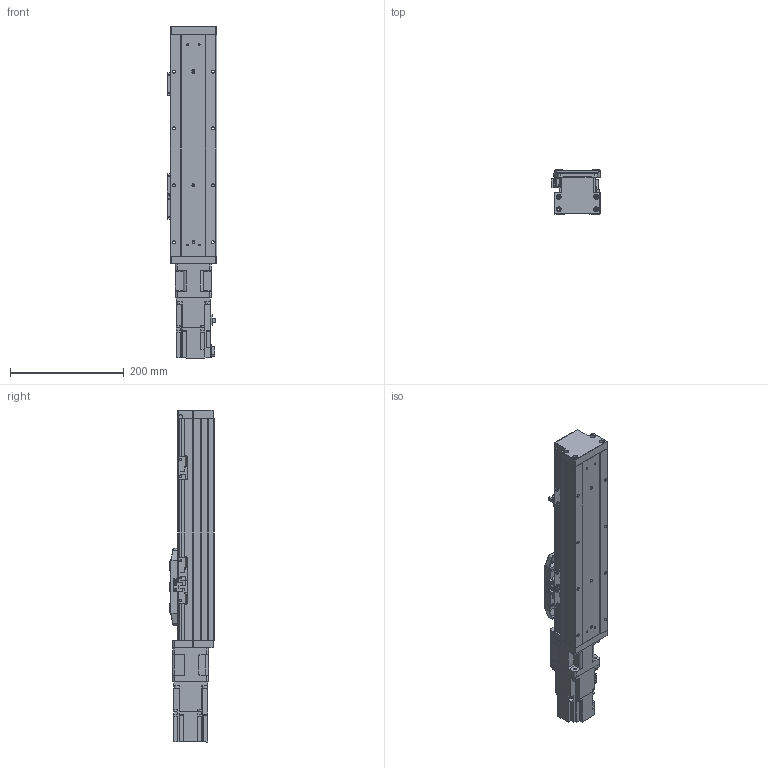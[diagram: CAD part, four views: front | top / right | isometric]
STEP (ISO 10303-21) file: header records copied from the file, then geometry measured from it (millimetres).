
FILE_DESCRIPTION (( 'STEP AP203' ), '1' );
FILE_NAME ('4.STEP', '2021-01-04T06:02:16', ( '' ), ( '' ), 'SwSTEP 2.0', 'SolidWorks 2016', '' );
FILE_SCHEMA (( 'CONFIG_CONTROL_DESIGN' ));
Length unit declared in the file: millimetre
Products named in the file (11): CTH8-BC-04; PM-Y45; CTH8-BC-05; CTH8-BC-07; CTH8-BC-01; CTH8-BC-菁釱; 4; CTH8-BC-HZ; CTH8-BC-02; CTH8-BC-T20; CTH8-BC-03
Assembly tree (15 placements, depth 2):
  4
    CTH8-BC-菁釱
    CTH8-BC-01
    CTH8-BC-02
    CTH8-BC-03
    CTH8-BC-04
    CTH8-BC-05  x2
    CTH8-BC-07  x3
    CTH8-BC-HZ
    CTH8-BC-T20
    PM-Y45  x3
Bounding box: 87 x 78 x 583.5 mm (x, y, z)
Volume: 2219834.3 mm3; surface area: 363326.9 mm2
Topology: 25 solids, 25 shells, 1548 faces, 4122 edges, 2631 vertices
Faces by surface type: plane 777, cylinder 519, cone 140, bspline 90, torus 18, sphere 4
Entity records: 44541 total; most frequent: CARTESIAN_POINT 10737, ORIENTED_EDGE 6920, DIRECTION 6440, EDGE_CURVE 3460, VERTEX_POINT 2231, LINE 2156, VECTOR 2156, AXIS2_PLACEMENT_3D 2142
